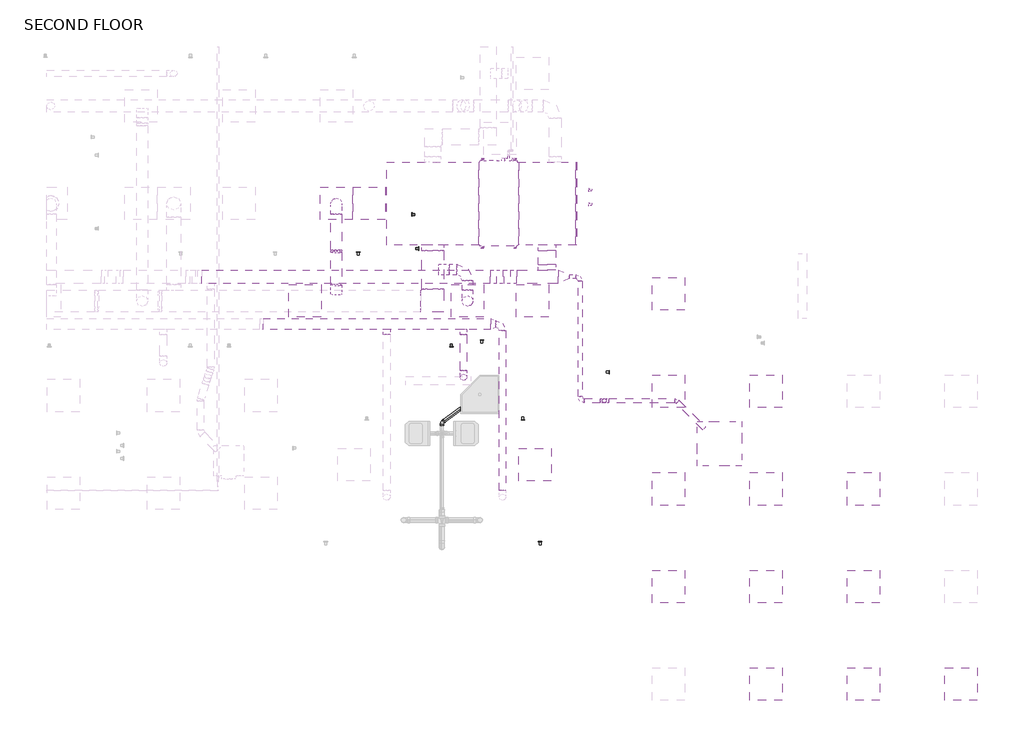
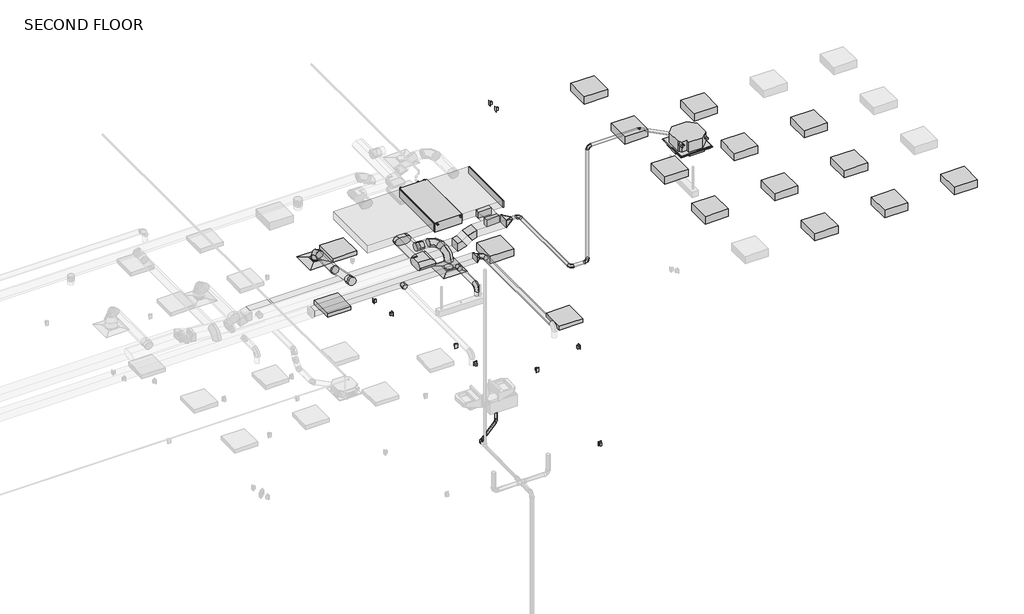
# One storey, part 5 of 12: 24 duct fittings, 22 duct segments, 16 light fixtures, 6 proxies, 6 switching devices, 2 air terminals, 2 pipe fittings, 2 pipe segments.
"""IFC4 building model written with IfcOpenShell, lengths in millimetres."""

from ifc_helpers import new_model, si_unit, point, frame, frame_2d, origin, place, context, project, spatial, polyline, circle_curve, trimmed, segment, composite_curve, outline, extrude, transform, mapped, element, save
from components import air_terminal_e9020785, mechanical_equipment_8a2286fb, mechanical_equipment_de7c3da1, duplex_receptacle_countertop_10251bba, oval_elbow_mitered_standard_57953c47, oval_tap_straight_standard_ffc37641, rectangular_elbow_radius_1_5_w_e6937f48, rectangular_endcap_standard_127bff01, rectangular_takeoff_standard_68f80ab3, rectangular_takeoff_standard_5ed12392, rectangular_to_round_transition_angle_45_degree_4c5d7f98, rectangular_to_round_transition_angle_45_degree_93651def, round_elbow_1_d_a253342a, round_elbow_1_d_c80420c1, round_elbow_1_d_aff85894, round_elbow_1_d_8c5a454f, round_elbow_1_d_b51427ba, round_takeoff_standard_8f6f248b, round_takeoff_standard_275da0e0, round_takeoff_standard_7fe2b2d5, troffer_corner_insert_2x2_3_lamp_emergency_29e3a813, troffer_corner_insert_2x2_3lamp_e67c7f8f, bend_pvc_sch_40_dwv_standard_1eaeee76, bend_pvc_sch_40_dwv_standard_be5bc2fd

model = new_model("IFC4")

# Units and contexts
model_context = context("Model", 3, world=origin())
ifc_project = project(units=[si_unit("LENGTHUNIT", "METRE", prefix="MILLI")], contexts=[model_context])

# Site, building, storey
site = spatial("IfcSite", under=ifc_project)
building = spatial("IfcBuilding", under=site)
storey = spatial("IfcBuildingStorey", under=building, Name="SECOND FLOOR", Elevation=34544.0)

# Air terminals
placement = place(None, origin())
air_terminal_shape = air_terminal_e9020785(model_context)
element("IfcAirTerminal", 1, ObjectType="Supply Diffuser - Rectangular Face Round Neck - Hosted : 24\"x24\" Face 8\" Neck - Hosted", at=placement, inside=storey, context=model_context, shape_type="MappedRepresentation", body=[
    mapped(air_terminal_shape, transform((8717.1232893, -751.4804995, 37287.2), x_axis=(-1.0, 0.0, 0.0), y_axis=(0.0, 1.0, 0.0), z_axis=(0.0, 0.0, -1.0))),
])
element("IfcAirTerminal", 2, ObjectType="Supply Diffuser - Rectangular Face Round Neck - Hosted : 24\"x24\" Face 8\" Neck - Hosted", at=placement, inside=storey, context=model_context, shape_type="MappedRepresentation", body=[
    mapped(air_terminal_shape, transform((11173.7795393, -2580.2804995, 37287.2), x_axis=(-1.0, 0.0, 0.0), y_axis=(0.0, 1.0, 0.0), z_axis=(0.0, 0.0, -1.0))),
])

# Proxies
mechanical_equipment_shape = mechanical_equipment_8a2286fb(model_context)
element("IfcBuildingElementProxy", 3, Name="PEFY-P-NMAU-E_Medium_Static_Ducted : PEFY-P54NMAU-E", ObjectType="PEFY-P-NMAU-E_Medium_Static_Ducted : PEFY-P54NMAU-E", at=placement, inside=storey, context=model_context, shape_type="MappedRepresentation", body=[
    mapped(mechanical_equipment_shape, transform((11814.3357893, -741.4682565, 37566.6), x_axis=(0.0, 1.0, 0.0), y_axis=(-1.0, 0.0, 0.0), z_axis=(0.0, 0.0, 1.0))),
])
mechanical_equipment_2_shape = mechanical_equipment_de7c3da1(model_context)
element("IfcBuildingElementProxy", 4, Name="PLFY-P-NBMU-E_4-way_33x33 : PLFY-P36NBMU-E", ObjectType="PLFY-P-NBMU-E_4-way_33x33 : PLFY-P36NBMU-E", at=placement, inside=storey, context=model_context, shape_type="MappedRepresentation", body=[
    mapped(mechanical_equipment_2_shape, transform((15640.3157152, -5255.0503148, 40741.6), x_axis=(1.0, 0.0, 0.0), y_axis=(0.0, 1.0, 0.0), z_axis=(0.0, 0.0, 1.0))),
])
duplex_receptacle_countertop_shape = duplex_receptacle_countertop_10251bba(model_context)
element("IfcBuildingElementProxy", 5, Name="Duplex Receptacle : GFCI", ObjectType="Duplex Receptacle : GFCI", at=placement, inside=storey, context=model_context, shape_type="MappedRepresentation", body=[
    mapped(duplex_receptacle_countertop_shape, transform((12532.6032078, -7095.1304995, 34696.4), x_axis=(-1.0, 0.0, 0.0), y_axis=(0.0, 0.0, 1.0), z_axis=(0.0, 1.0, 0.0))),
])
element("IfcBuildingElementProxy", 6, Name="Duplex Receptacle : Standard", ObjectType="Duplex Receptacle : Standard", at=placement, inside=storey, context=model_context, shape_type="MappedRepresentation", body=[
    mapped(duplex_receptacle_countertop_shape, transform((9126.9080833, -1665.8804995, 35001.2), x_axis=(-1.0, 0.0, 0.0), y_axis=(0.0, 0.0, 1.0), z_axis=(0.0, 1.0, 0.0))),
])
element("IfcBuildingElementProxy", 7, Name="Duplex Receptacle : Standard", ObjectType="Duplex Receptacle : Standard", at=placement, inside=storey, context=model_context, shape_type="MappedRepresentation", body=[
    mapped(duplex_receptacle_countertop_shape, transform((11443.1486524, -3313.7054995, 35001.2), x_axis=(-1.0, 0.0, 0.0), y_axis=(0.0, 0.0, 1.0), z_axis=(0.0, 1.0, 0.0))),
])
element("IfcBuildingElementProxy", 8, Name="Duplex Receptacle : Standard", ObjectType="Duplex Receptacle : Standard", at=placement, inside=storey, context=model_context, shape_type="MappedRepresentation", body=[
    mapped(duplex_receptacle_countertop_shape, transform((13828.0795393, -3914.6809044, 35001.2), x_axis=(0.0, 1.0, 0.0), y_axis=(0.0, 0.0, 1.0), z_axis=(1.0, 0.0, 0.0))),
])

# Duct fittings
oval_elbow_mitered_standard_shape = oval_elbow_mitered_standard_57953c47(model_context)
element("IfcDuctFitting", 9, ObjectType="Oval Elbow - Mitered : Standard", at=placement, inside=storey, context=model_context, shape_type="MappedRepresentation", body=[
    mapped(oval_elbow_mitered_standard_shape, transform((10522.5076643, -2580.2804995, 37711.1892428), x_axis=(1.0, 0.0, 0.0), y_axis=(0.0, 1.0, 0.0), z_axis=(0.0, 0.0, 1.0))),
])
oval_tap_straight_standard_shape = oval_tap_straight_standard_ffc37641(model_context)
element("IfcDuctFitting", 10, ObjectType="Oval Tap - Straight : Standard", at=placement, inside=storey, context=model_context, shape_type="MappedRepresentation", body=[
    mapped(oval_tap_straight_standard_shape, transform((10522.5076643, -1529.3554995, 37711.1892428), x_axis=(0.0, -1.0, 0.0), y_axis=(-1.0, 0.0, 0.0), z_axis=(0.0, 0.0, -1.0))),
])
rectangular_elbow_radius_1_5_w_shape = rectangular_elbow_radius_1_5_w_e6937f48(model_context)
element("IfcDuctFitting", 11, ObjectType="Rectangular Elbow - Radius : 1.5 W", at=placement, inside=storey, context=model_context, shape_type="MappedRepresentation", body=[
    mapped(rectangular_elbow_radius_1_5_w_shape, transform((11698.9780581, -2123.0804995, 37515.8), x_axis=(1.0, 0.0, 0.0), y_axis=(0.0, 0.0, 1.0), z_axis=(0.0, -1.0, 0.0))),
])
element("IfcDuctFitting", 12, ObjectType="Rectangular Elbow - Radius : 1.5 W", at=placement, inside=storey, context=model_context, shape_type="MappedRepresentation", body=[
    mapped(rectangular_elbow_radius_1_5_w_shape, transform((11999.3800654, -2123.0804995, 37726.14375), x_axis=(0.8191520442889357, 0.0, 0.5735764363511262), y_axis=(0.5735764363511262, 0.0, -0.8191520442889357), z_axis=(0.0, 1.0, 0.0))),
])
rectangular_endcap_standard_shape = rectangular_endcap_standard_127bff01(model_context)
element("IfcDuctFitting", 13, ObjectType="Rectangular Endcap : Standard", at=placement, inside=storey, context=model_context, shape_type="MappedRepresentation", body=[
    mapped(rectangular_endcap_standard_shape, transform((13198.6357893, -751.4804995, 37726.14375), x_axis=(1.0, 0.0, 0.0), y_axis=(0.0, 1.0, 0.0), z_axis=(0.0, 0.0, 1.0))),
])
rectangular_takeoff_standard_shape = rectangular_takeoff_standard_68f80ab3(model_context)
element("IfcDuctFitting", 14, ObjectType="Rectangular Takeoff : Standard", at=placement, inside=storey, context=model_context, shape_type="MappedRepresentation", body=[
    mapped(rectangular_takeoff_standard_shape, transform((12665.2357893, -1996.0804995, 37726.14375), x_axis=(0.0, 1.0, 0.0), y_axis=(1.0, 0.0, 0.0), z_axis=(0.0, 0.0, -1.0))),
])
rectangular_takeoff_standard_2_shape = rectangular_takeoff_standard_5ed12392(model_context)
element("IfcDuctFitting", 15, ObjectType="Rectangular Takeoff : Standard", at=placement, inside=storey, context=model_context, shape_type="MappedRepresentation", body=[
    mapped(rectangular_takeoff_standard_2_shape, transform((12665.2357893, -1529.3554995, 37726.14375), x_axis=(0.0, -1.0, 0.0), y_axis=(-1.0, 0.0, 0.0), z_axis=(0.0, 0.0, -1.0))),
])
rectangular_to_round_transition_angle_45_degree_shape = rectangular_to_round_transition_angle_45_degree_4c5d7f98(model_context)
element("IfcDuctFitting", 16, ObjectType="Rectangular to Round Transition - Angle : 45 Degree", at=placement, inside=storey, context=model_context, shape_type="MappedRepresentation", body=[
    mapped(rectangular_to_round_transition_angle_45_degree_shape, transform((11608.8480026, -3010.2706668, 37693.6), x_axis=(1.0, 0.0, 0.0), y_axis=(0.0, 1.0, 0.0), z_axis=(0.0, 0.0, 1.0))),
])
rectangular_to_round_transition_angle_45_degree_2_shape = rectangular_to_round_transition_angle_45_degree_93651def(model_context)
element("IfcDuctFitting", 17, ObjectType="Rectangular to Round Transition - Angle : 45 Degree", at=placement, inside=storey, context=model_context, shape_type="MappedRepresentation", body=[
    mapped(rectangular_to_round_transition_angle_45_degree_2_shape, transform((12871.0102837, -2123.0804995, 37726.14375), x_axis=(1.0, 0.0, 0.0), y_axis=(0.0, 1.0, 0.0), z_axis=(0.0, 0.0, 1.0))),
])
round_elbow_1_d_shape = round_elbow_1_d_a253342a(model_context)
element("IfcDuctFitting", 18, ObjectType="Round Elbow : 1 D", at=placement, inside=storey, context=model_context, shape_type="MappedRepresentation", body=[
    mapped(round_elbow_1_d_shape, transform((11173.7795393, -2580.2804995, 37712.65), x_axis=(0.0, 0.0, 1.0), y_axis=(0.0, 1.0, 0.0), z_axis=(-1.0, 0.0, 0.0))),
])
element("IfcDuctFitting", 19, ObjectType="Round Elbow : 1 D", at=placement, inside=storey, context=model_context, shape_type="MappedRepresentation", body=[
    mapped(round_elbow_1_d_shape, transform((8717.1232893, -751.4804995, 37547.2858674), x_axis=(0.0, 0.0, 1.0), y_axis=(0.0, -1.0, 0.0), z_axis=(1.0, 0.0, 0.0))),
])
element("IfcDuctFitting", 20, ObjectType="Round Elbow : 1 D", at=placement, inside=storey, context=model_context, shape_type="MappedRepresentation", body=[
    mapped(round_elbow_1_d_shape, transform((11173.7795393, -1991.3179995, 37712.65), x_axis=(0.0, 1.0, 0.0), y_axis=(-1.0, 0.0, 0.0), z_axis=(0.0, 0.0, 1.0))),
])
round_elbow_1_d_2_shape = round_elbow_1_d_c80420c1(model_context)
element("IfcDuctFitting", 21, ObjectType="Round Elbow : 1 D", at=placement, inside=storey, context=model_context, shape_type="MappedRepresentation", body=[
    mapped(round_elbow_1_d_2_shape, transform((11827.8295393, -3010.2706668, 37693.6), x_axis=(0.0, 1.0, 0.0), y_axis=(-1.0, 0.0, 0.0), z_axis=(0.0, 0.0, 1.0))),
])
element("IfcDuctFitting", 22, ObjectType="Round Elbow : 1 D", at=placement, inside=storey, context=model_context, shape_type="MappedRepresentation", body=[
    mapped(round_elbow_1_d_2_shape, transform((11097.8695952, -4010.3447967, 37693.6), x_axis=(0.0, 0.0, 1.0), y_axis=(0.0, 1.0, 0.0), z_axis=(-1.0, 0.0, 0.0))),
])
round_elbow_1_d_3_shape = round_elbow_1_d_aff85894(model_context)
element("IfcDuctFitting", 23, ObjectType="Round Elbow : 1 D", at=placement, inside=storey, context=model_context, shape_type="MappedRepresentation", body=[
    mapped(round_elbow_1_d_3_shape, transform((15088.2098103, -4450.4058819, 40919.3007812), x_axis=(-0.707106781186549, 0.707106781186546, 0.0), y_axis=(-0.707106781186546, -0.707106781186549, 0.0), z_axis=(0.0, 0.0, 1.0))),
])
round_elbow_1_d_4_shape = round_elbow_1_d_8c5a454f(model_context)
element("IfcDuctFitting", 24, ObjectType="Round Elbow : 1 D", at=placement, inside=storey, context=model_context, shape_type="MappedRepresentation", body=[
    mapped(round_elbow_1_d_4_shape, transform((13284.3268912, -2123.0804995, 37726.14375), x_axis=(0.0, 1.0, 0.0), y_axis=(-1.0, 0.0, 0.0), z_axis=(0.0, 0.0, 1.0))),
])
element("IfcDuctFitting", 25, ObjectType="Round Elbow : 1 D", at=placement, inside=storey, context=model_context, shape_type="MappedRepresentation", body=[
    mapped(round_elbow_1_d_4_shape, transform((13736.710796, -4450.4058819, 40919.3007812), x_axis=(-1.0, 0.0, 0.0), y_axis=(0.0, 0.0, -1.0), z_axis=(0.0, -1.0, 0.0))),
])
element("IfcDuctFitting", 26, ObjectType="Round Elbow : 1 D", at=placement, inside=storey, context=model_context, shape_type="MappedRepresentation", body=[
    mapped(round_elbow_1_d_4_shape, transform((13736.710796, -4450.4058819, 37726.14375), x_axis=(0.0, 0.0, -1.0), y_axis=(-1.0, 0.0, 0.0), z_axis=(0.0, 1.0, 0.0))),
])
element("IfcDuctFitting", 27, ObjectType="Round Elbow : 1 D", at=placement, inside=storey, context=model_context, shape_type="MappedRepresentation", body=[
    mapped(round_elbow_1_d_4_shape, transform((13284.3268912, -4450.4058819, 37726.14375), x_axis=(0.0, -1.0, 0.0), y_axis=(1.0, 0.0, 0.0), z_axis=(0.0, 0.0, 1.0))),
])
round_elbow_1_d_5_shape = round_elbow_1_d_b51427ba(model_context)
element("IfcDuctFitting", 28, ObjectType="Round Elbow : 1 D", at=placement, inside=storey, context=model_context, shape_type="MappedRepresentation", body=[
    mapped(round_elbow_1_d_5_shape, transform((8717.1232893, -1644.9208818, 37547.2858674), x_axis=(0.0, -1.0, 0.0), y_axis=(0.0, 0.0, 1.0), z_axis=(-1.0, 0.0, 0.0))),
])
round_takeoff_standard_shape = round_takeoff_standard_8f6f248b(model_context)
element("IfcDuctFitting", 29, ObjectType="Round Takeoff : Standard", at=placement, inside=storey, context=model_context, shape_type="MappedRepresentation", body=[
    mapped(round_takeoff_standard_shape, transform((8717.1232893, -2378.315039, 37696.8596758), x_axis=(0.0, 0.9798298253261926, -0.1998337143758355), y_axis=(-1.0, 0.0, 0.0), z_axis=(0.0, 0.1998337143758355, 0.9798298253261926))),
])
round_takeoff_standard_2_shape = round_takeoff_standard_275da0e0(model_context)
element("IfcDuctFitting", 30, ObjectType="Round Takeoff : Standard", at=placement, inside=storey, context=model_context, shape_type="MappedRepresentation", body=[
    mapped(round_takeoff_standard_2_shape, transform((10725.7076643, -1991.3179995, 37712.65), x_axis=(1.0, 0.0, 0.0), y_axis=(0.0, -1.0, 0.0), z_axis=(0.0, 0.0, -1.0))),
])
round_takeoff_standard_3_shape = round_takeoff_standard_7fe2b2d5(model_context)
element("IfcDuctFitting", 31, ObjectType="Round Takeoff : Standard", at=placement, inside=storey, context=model_context, shape_type="MappedRepresentation", body=[
    mapped(round_takeoff_standard_3_shape, transform((9659.3045393, -3111.8706668, 37693.6), x_axis=(0.0, -1.0, 0.0), y_axis=(-1.0, 0.0, 0.0), z_axis=(0.0, 0.0, -1.0))),
])
element("IfcDuctFitting", 32, ObjectType="Round Takeoff : Standard", at=placement, inside=storey, context=model_context, shape_type="MappedRepresentation", body=[
    mapped(round_takeoff_standard_3_shape, transform((11097.8695952, -3111.8706668, 37693.6), x_axis=(0.0, -1.0, 0.0), y_axis=(-1.0, 0.0, 0.0), z_axis=(0.0, 0.0, -1.0))),
])

# Duct segments
element("IfcDuctSegment", 33, ObjectType="Mitered Elbows / Taps", at=placement, inside=storey, context=model_context, shape_type="SweptSolid", body=[
    extrude(outline(composite_curve([segment(trimmed(circle_curve(frame_2d((37711.1892428, 10420.9076643)), 101.6), [point((37812.7892428, 10420.9076643))], [point((37711.1892428, 10319.3076643))], False, "CARTESIAN"), True, "CONTINUOUS"), segment(trimmed(circle_curve(frame_2d((37711.1892428, 10420.9076643)), 101.6), [point((37711.1892428, 10319.3076643))], [point((37609.5892428, 10420.9076643))], False, "CARTESIAN"), True, "CONTINUOUS"), segment(polyline([(37609.5892428, 10420.9076643), (37609.5892428, 10624.1076643)]), True, "CONTINUOUS"), segment(trimmed(circle_curve(frame_2d((37711.1892428, 10624.1076643)), 101.6), [point((37609.5892428, 10624.1076643))], [point((37711.1892428, 10725.7076643))], False, "CARTESIAN"), True, "CONTINUOUS"), segment(trimmed(circle_curve(frame_2d((37711.1892428, 10624.1076643)), 101.6), [point((37711.1892428, 10725.7076643))], [point((37812.7892428, 10624.1076643))], False, "CARTESIAN"), True, "CONTINUOUS"), segment(polyline([(37812.7892428, 10624.1076643), (37812.7892428, 10420.9076643)]), True, "CONTINUOUS")], self_intersect=False)), frame((0.0, -2351.6804995, 0.0), z_axis=(0.0, 1.0, 0.0), x_axis=(0.0, 0.0, 1.0)), (0.0, 0.0, 1.0), 720.725),
])
element("IfcDuctSegment", 34, ObjectType="Mitered Elbows / Taps", at=placement, inside=storey, context=model_context, shape_type="SweptSolid", body=[
    extrude(outline(polyline([(7344.8230026, -3111.8706668), (7344.8230026, -2908.6706668), (11608.8480026, -2908.6706668), (11608.8480026, -3111.8706668), (7344.8230026, -3111.8706668)])), frame((0.0, 0.0, 37617.4), z_axis=(0.0, 0.0, 1.0), x_axis=(1.0, 0.0, 0.0)), (0.0, 0.0, 1.0), 152.4),
])
element("IfcDuctSegment", 35, ObjectType="Mitered Elbows / Taps", at=placement, inside=storey, context=model_context, shape_type="SweptSolid", body=[
    extrude(outline(polyline([(12500.1357893, -1630.9554995), (12830.3357893, -1630.9554995), (12830.3357893, -1894.4804995), (12500.1357893, -1894.4804995), (12500.1357893, -1630.9554995)])), frame((0.0, 0.0, 37637.24375), z_axis=(0.0, 0.0, 1.0), x_axis=(1.0, 0.0, 0.0)), (0.0, 0.0, 1.0), 177.8),
])
element("IfcDuctSegment", 36, ObjectType="Mitered Elbows / Tees", at=placement, inside=storey, context=model_context, shape_type="SweptSolid", body=[
    extrude(outline(polyline([(11385.7107893, 26.3945005), (11385.7107893, -1529.3554995), (9659.3045393, -1529.3554995), (9659.3045393, 26.3945005), (11385.7107893, 26.3945005)])), frame((0.0, 0.0, 37609.4625), z_axis=(0.0, 0.0, 1.0), x_axis=(1.0, 0.0, 0.0)), (0.0, 0.0, 1.0), 206.375),
])
element("IfcDuctSegment", 37, ObjectType="Mitered Elbows / Tees", at=placement, inside=storey, context=model_context, shape_type="SweptSolid", body=[
    extrude(outline(polyline([(12131.8357893, -1529.3554995), (12131.8357893, 26.3945005), (13198.6357893, 26.3945005), (13198.6357893, -1529.3554995), (12131.8357893, -1529.3554995)])), frame((0.0, 0.0, 37636.45), z_axis=(0.0, 0.0, 1.0), x_axis=(1.0, 0.0, 0.0)), (0.0, 0.0, 1.0), 179.3875),
])
element("IfcDuctSegment", 38, ObjectType="Radius Elbows / Taps", at=placement, inside=storey, context=model_context, shape_type="SweptSolid", body=[
    extrude(outline(polyline([(6192.5974376, -2250.0804995), (6192.5974376, -1996.0804995), (11602.8749873, -1996.0804995), (11602.8749873, -2250.0804995), (6192.5974376, -2250.0804995)])), frame((0.0, 0.0, 37414.2), z_axis=(0.0, 0.0, 1.0), x_axis=(1.0, 0.0, 0.0)), (0.0, 0.0, 1.0), 203.2),
])
element("IfcDuctSegment", 39, ObjectType="Radius Elbows / Taps", at=placement, inside=storey, context=model_context, shape_type="SweptSolid", body=[
    extrude(outline(polyline([(0.0, -254.0), (0.0, 0.0), (174.5169952, 0.0), (174.5169952, -254.0), (0.0, -254.0)])), frame((11835.976451, -1996.0804995, 37487.6966092), z_axis=(-0.5735764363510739, 0.0, 0.8191520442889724), x_axis=(0.8191520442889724, 0.0, 0.5735764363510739)), (0.0, 0.0, 1.0), 203.2),
])
element("IfcDuctSegment", 40, ObjectType="Radius Elbows / Taps", at=placement, inside=storey, context=model_context, shape_type="SweptSolid", body=[
    extrude(outline(polyline([(12095.4831363, -2250.0804995), (12095.4831363, -1996.0804995), (12871.0102837, -1996.0804995), (12871.0102837, -2250.0804995), (12095.4831363, -2250.0804995)])), frame((0.0, 0.0, 37624.54375), z_axis=(0.0, 0.0, 1.0), x_axis=(1.0, 0.0, 0.0)), (0.0, 0.0, 1.0), 203.2),
])
element("IfcDuctSegment", 41, ObjectType="Taps / Short Radius", at=placement, inside=storey, context=model_context, shape_type="SweptSolid", body=[
    extrude(outline(composite_curve([segment(trimmed(circle_curve(frame_2d((-1991.3179995, 37712.65)), 101.6), [point((-1889.7179995, 37712.65))], [point((-1991.3179995, 37611.05))], False, "CARTESIAN"), True, "CONTINUOUS"), segment(trimmed(circle_curve(frame_2d((-1991.3179995, 37712.65)), 101.6), [point((-1991.3179995, 37611.05))], [point((-2092.9179995, 37712.65))], False, "CARTESIAN"), True, "CONTINUOUS"), segment(trimmed(circle_curve(frame_2d((-1991.3179995, 37712.65)), 101.6), [point((-2092.9179995, 37712.65))], [point((-1991.3179995, 37814.25))], False, "CARTESIAN"), True, "CONTINUOUS"), segment(trimmed(circle_curve(frame_2d((-1991.3179995, 37712.65)), 101.6), [point((-1991.3179995, 37814.25))], [point((-1889.7179995, 37712.65))], False, "CARTESIAN"), True, "CONTINUOUS")], self_intersect=False)), frame((10827.3076643, 0.0, 0.0), z_axis=(1.0, 0.0, 0.0), x_axis=(0.0, 1.0, 0.0)), (0.0, 0.0, 1.0), 143.271875),
])
element("IfcDuctSegment", 42, ObjectType="Taps / Short Radius", at=placement, inside=storey, context=model_context, shape_type="SweptSolid", body=[
    extrude(outline(composite_curve([segment(trimmed(circle_curve(frame_2d((37712.65, 11173.7795393)), 101.6), [point((37712.65, 11275.3795393))], [point((37814.25, 11173.7795393))], False, "CARTESIAN"), True, "CONTINUOUS"), segment(trimmed(circle_curve(frame_2d((37712.65, 11173.7795393)), 101.6), [point((37814.25, 11173.7795393))], [point((37712.65, 11072.1795393))], False, "CARTESIAN"), True, "CONTINUOUS"), segment(trimmed(circle_curve(frame_2d((37712.65, 11173.7795393)), 101.6), [point((37712.65, 11072.1795393))], [point((37611.05, 11173.7795393))], False, "CARTESIAN"), True, "CONTINUOUS"), segment(trimmed(circle_curve(frame_2d((37712.65, 11173.7795393)), 101.6), [point((37611.05, 11173.7795393))], [point((37712.65, 11275.3795393))], False, "CARTESIAN"), True, "CONTINUOUS")], self_intersect=False)), frame((0.0, -2377.0804995, 0.0), z_axis=(0.0, 1.0, 0.0), x_axis=(0.0, 0.0, 1.0)), (0.0, 0.0, 1.0), 182.5625),
])
element("IfcDuctSegment", 43, ObjectType="Taps / Short Radius", at=placement, inside=storey, context=model_context, shape_type="SweptSolid", body=[
    extrude(outline(composite_curve([segment(trimmed(circle_curve(frame_2d((11173.7795393, -2580.2804995)), 101.6), [point((11072.1795393, -2580.2804995))], [point((11173.7795393, -2478.6804995))], False, "CARTESIAN"), True, "CONTINUOUS"), segment(trimmed(circle_curve(frame_2d((11173.7795393, -2580.2804995)), 101.6), [point((11173.7795393, -2478.6804995))], [point((11275.3795393, -2580.2804995))], False, "CARTESIAN"), True, "CONTINUOUS"), segment(trimmed(circle_curve(frame_2d((11173.7795393, -2580.2804995)), 101.6), [point((11275.3795393, -2580.2804995))], [point((11173.7795393, -2681.8804995))], False, "CARTESIAN"), True, "CONTINUOUS"), segment(trimmed(circle_curve(frame_2d((11173.7795393, -2580.2804995)), 101.6), [point((11173.7795393, -2681.8804995))], [point((11072.1795393, -2580.2804995))], False, "CARTESIAN"), True, "CONTINUOUS")], self_intersect=False)), frame((0.0, 0.0, 37341.175), z_axis=(0.0, 0.0, 1.0), x_axis=(1.0, 0.0, 0.0)), (0.0, 0.0, 1.0), 168.275),
])
element("IfcDuctSegment", 44, ObjectType="Taps / Short Radius", at=placement, inside=storey, context=model_context, shape_type="SweptSolid", body=[
    extrude(outline(composite_curve([segment(trimmed(circle_curve(frame_2d((37693.6, 11827.8295393)), 63.5), [point((37693.6, 11891.3295393))], [point((37757.1, 11827.8295393))], False, "CARTESIAN"), True, "CONTINUOUS"), segment(trimmed(circle_curve(frame_2d((37693.6, 11827.8295393)), 63.5), [point((37757.1, 11827.8295393))], [point((37693.6, 11764.3295393))], False, "CARTESIAN"), True, "CONTINUOUS"), segment(trimmed(circle_curve(frame_2d((37693.6, 11827.8295393)), 63.5), [point((37693.6, 11764.3295393))], [point((37630.1, 11827.8295393))], False, "CARTESIAN"), True, "CONTINUOUS"), segment(trimmed(circle_curve(frame_2d((37693.6, 11827.8295393)), 63.5), [point((37630.1, 11827.8295393))], [point((37693.6, 11891.3295393))], False, "CARTESIAN"), True, "CONTINUOUS")], self_intersect=False)), frame((0.0, -6129.9304995, 0.0), z_axis=(0.0, 1.0, 0.0), x_axis=(0.0, 0.0, 1.0)), (0.0, 0.0, 1.0), 2992.6598327),
])
element("IfcDuctSegment", 45, ObjectType="Taps / Short Radius", at=placement, inside=storey, context=model_context, shape_type="SweptSolid", body=[
    extrude(outline(composite_curve([segment(trimmed(circle_curve(frame_2d((11097.8695952, -4010.3447967)), 63.5), [point((11034.3695952, -4010.3447967))], [point((11097.8695952, -3946.8447967))], False, "CARTESIAN"), True, "CONTINUOUS"), segment(trimmed(circle_curve(frame_2d((11097.8695952, -4010.3447967)), 63.5), [point((11097.8695952, -3946.8447967))], [point((11161.3695952, -4010.3447967))], False, "CARTESIAN"), True, "CONTINUOUS"), segment(trimmed(circle_curve(frame_2d((11097.8695952, -4010.3447967)), 63.5), [point((11161.3695952, -4010.3447967))], [point((11097.8695952, -4073.8447967))], False, "CARTESIAN"), True, "CONTINUOUS"), segment(trimmed(circle_curve(frame_2d((11097.8695952, -4010.3447967)), 63.5), [point((11097.8695952, -4073.8447967))], [point((11034.3695952, -4010.3447967))], False, "CARTESIAN"), True, "CONTINUOUS")], self_intersect=False)), frame((0.0, 0.0, 37388.8), z_axis=(0.0, 0.0, 1.0), x_axis=(1.0, 0.0, 0.0)), (0.0, 0.0, 1.0), 177.8),
])
element("IfcDuctSegment", 46, ObjectType="Taps / Short Radius", at=placement, inside=storey, context=model_context, shape_type="SweptSolid", body=[
    extrude(outline(composite_curve([segment(trimmed(circle_curve(frame_2d((37693.6, 11097.8695952)), 63.5), [point((37693.6, 11161.3695952))], [point((37757.1, 11097.8695952))], False, "CARTESIAN"), True, "CONTINUOUS"), segment(trimmed(circle_curve(frame_2d((37693.6, 11097.8695952)), 63.5), [point((37757.1, 11097.8695952))], [point((37693.6, 11034.3695952))], False, "CARTESIAN"), True, "CONTINUOUS"), segment(trimmed(circle_curve(frame_2d((37693.6, 11097.8695952)), 63.5), [point((37693.6, 11034.3695952))], [point((37630.1, 11097.8695952))], False, "CARTESIAN"), True, "CONTINUOUS"), segment(trimmed(circle_curve(frame_2d((37693.6, 11097.8695952)), 63.5), [point((37630.1, 11097.8695952))], [point((37693.6, 11161.3695952))], False, "CARTESIAN"), True, "CONTINUOUS")], self_intersect=False)), frame((0.0, -3883.3447967, 0.0), z_axis=(0.0, 1.0, 0.0), x_axis=(0.0, 0.0, 1.0)), (0.0, 0.0, 1.0), 669.8741299),
])
element("IfcDuctSegment", 47, ObjectType="Taps / Short Radius", at=placement, inside=storey, context=model_context, shape_type="SweptSolid", body=[
    extrude(outline(composite_curve([segment(trimmed(circle_curve(frame_2d((0.0, 39.5882813)), 39.5882812), [point((39.5882812, 39.5882813))], [point((0.0, 0.0))], False, "CARTESIAN"), True, "CONTINUOUS"), segment(trimmed(circle_curve(frame_2d((0.0, 39.5882813)), 39.5882813), [point((0.0, 0.0))], [point((-39.5882812, 39.5882813))], False, "CARTESIAN"), True, "CONTINUOUS"), segment(trimmed(circle_curve(frame_2d((0.0, 39.5882813)), 39.5882812), [point((-39.5882812, 39.5882813))], [point((0.0, 79.1765625))], False, "CARTESIAN"), True, "CONTINUOUS"), segment(trimmed(circle_curve(frame_2d((0.0, 39.5882813)), 39.5882813), [point((0.0, 79.1765625))], [point((39.5882812, 39.5882813))], False, "CARTESIAN"), True, "CONTINUOUS")], self_intersect=False)), frame((15609.0646653, -4971.2607369, 40958.8890625), z_axis=(-0.7071067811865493, 0.7071067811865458, 0.0), x_axis=(0.7071067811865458, 0.7071067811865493, 0.0)), (0.0, 0.0, 1.0), 703.803994),
])
element("IfcDuctSegment", 48, ObjectType="Taps / Short Radius", at=placement, inside=storey, context=model_context, shape_type="SweptSolid", body=[
    extrude(outline(composite_curve([segment(trimmed(circle_curve(frame_2d((-4450.4058819, 40919.3007812)), 39.5882812), [point((-4410.8176006, 40919.3007812))], [point((-4450.4058819, 40879.7125))], False, "CARTESIAN"), True, "CONTINUOUS"), segment(trimmed(circle_curve(frame_2d((-4450.4058819, 40919.3007812)), 39.5882813), [point((-4450.4058819, 40879.7125))], [point((-4489.9941631, 40919.3007812))], False, "CARTESIAN"), True, "CONTINUOUS"), segment(trimmed(circle_curve(frame_2d((-4450.4058819, 40919.3007812)), 39.5882813), [point((-4489.9941631, 40919.3007812))], [point((-4450.4058819, 40958.8890625))], False, "CARTESIAN"), True, "CONTINUOUS"), segment(trimmed(circle_curve(frame_2d((-4450.4058819, 40919.3007812)), 39.5882813), [point((-4450.4058819, 40958.8890625))], [point((-4410.8176006, 40919.3007812))], False, "CARTESIAN"), True, "CONTINUOUS")], self_intersect=False)), frame((13815.8873585, 0.0, 0.0), z_axis=(1.0, 0.0, 0.0), x_axis=(0.0, 1.0, 0.0)), (0.0, 0.0, 1.0), 1239.5264458),
])
element("IfcDuctSegment", 49, ObjectType="Taps / Short Radius", at=placement, inside=storey, context=model_context, shape_type="SweptSolid", body=[
    extrude(outline(composite_curve([segment(trimmed(circle_curve(frame_2d((37726.14375, 13284.3268912)), 39.5882813), [point((37726.14375, 13244.73861))], [point((37686.5554688, 13284.3268912))], False, "CARTESIAN"), True, "CONTINUOUS"), segment(trimmed(circle_curve(frame_2d((37726.14375, 13284.3268912)), 39.5882813), [point((37686.5554688, 13284.3268912))], [point((37726.14375, 13323.9151725))], False, "CARTESIAN"), True, "CONTINUOUS"), segment(trimmed(circle_curve(frame_2d((37726.14375, 13284.3268912)), 39.5882812), [point((37726.14375, 13323.9151725))], [point((37765.7320313, 13284.3268912))], False, "CARTESIAN"), True, "CONTINUOUS"), segment(trimmed(circle_curve(frame_2d((37726.14375, 13284.3268912)), 39.5882813), [point((37765.7320313, 13284.3268912))], [point((37726.14375, 13244.73861))], False, "CARTESIAN"), True, "CONTINUOUS")], self_intersect=False)), frame((0.0, -4371.2293194, 0.0), z_axis=(0.0, 1.0, 0.0), x_axis=(0.0, 0.0, 1.0)), (0.0, 0.0, 1.0), 2168.9722574),
])
element("IfcDuctSegment", 50, ObjectType="Taps / Short Radius", at=placement, inside=storey, context=model_context, shape_type="SweptSolid", body=[
    extrude(outline(composite_curve([segment(trimmed(circle_curve(frame_2d((-2123.0804995, 37726.14375)), 39.5882813), [point((-2162.6687807, 37726.14375))], [point((-2123.0804995, 37765.7320313))], False, "CARTESIAN"), True, "CONTINUOUS"), segment(trimmed(circle_curve(frame_2d((-2123.0804995, 37726.14375)), 39.5882813), [point((-2123.0804995, 37765.7320313))], [point((-2083.4922182, 37726.14375))], False, "CARTESIAN"), True, "CONTINUOUS"), segment(trimmed(circle_curve(frame_2d((-2123.0804995, 37726.14375)), 39.5882813), [point((-2083.4922182, 37726.14375))], [point((-2123.0804995, 37686.5554688))], False, "CARTESIAN"), True, "CONTINUOUS"), segment(trimmed(circle_curve(frame_2d((-2123.0804995, 37726.14375)), 39.5882813), [point((-2123.0804995, 37686.5554688))], [point((-2162.6687807, 37726.14375))], False, "CARTESIAN"), True, "CONTINUOUS")], self_intersect=False)), frame((13082.0408406, 0.0, 0.0), z_axis=(1.0, 0.0, 0.0), x_axis=(0.0, 1.0, 0.0)), (0.0, 0.0, 1.0), 123.1094881),
])
element("IfcDuctSegment", 51, ObjectType="Taps / Short Radius", at=placement, inside=storey, context=model_context, shape_type="SweptSolid", body=[
    extrude(outline(composite_curve([segment(trimmed(circle_curve(frame_2d((37547.2858674, 8717.1232893)), 101.6), [point((37547.2858674, 8615.5232893))], [point((37445.6858674, 8717.1232893))], False, "CARTESIAN"), True, "CONTINUOUS"), segment(trimmed(circle_curve(frame_2d((37547.2858674, 8717.1232893)), 101.6), [point((37445.6858674, 8717.1232893))], [point((37547.2858674, 8818.7232893))], False, "CARTESIAN"), True, "CONTINUOUS"), segment(trimmed(circle_curve(frame_2d((37547.2858674, 8717.1232893)), 101.6), [point((37547.2858674, 8818.7232893))], [point((37648.8858674, 8717.1232893))], False, "CARTESIAN"), True, "CONTINUOUS"), segment(trimmed(circle_curve(frame_2d((37547.2858674, 8717.1232893)), 101.6), [point((37648.8858674, 8717.1232893))], [point((37547.2858674, 8615.5232893))], False, "CARTESIAN"), True, "CONTINUOUS")], self_intersect=False)), frame((0.0, -1624.4109318, 0.0), z_axis=(0.0, 1.0, 0.0), x_axis=(0.0, 0.0, 1.0)), (0.0, 0.0, 1.0), 669.7304323),
])
element("IfcDuctSegment", 52, ObjectType="Taps / Short Radius", at=placement, inside=storey, context=model_context, shape_type="SweptSolid", body=[
    extrude(outline(composite_curve([segment(trimmed(circle_curve(frame_2d((0.0, -101.6)), 101.6), [point((101.6, -101.6))], [point((0.0, -203.2))], False, "CARTESIAN"), True, "CONTINUOUS"), segment(trimmed(circle_curve(frame_2d((0.0, -101.6)), 101.6), [point((0.0, -203.2))], [point((-101.6, -101.6))], False, "CARTESIAN"), True, "CONTINUOUS"), segment(trimmed(circle_curve(frame_2d((0.0, -101.6)), 101.6), [point((-101.6, -101.6))], [point((0.0, 0.0))], False, "CARTESIAN"), True, "CONTINUOUS"), segment(trimmed(circle_curve(frame_2d((0.0, -101.6)), 101.6), [point((0.0, 0.0))], [point((101.6, -101.6))], False, "CARTESIAN"), True, "CONTINUOUS")], self_intersect=False)), frame((8717.1232893, -1644.7140371, 37650.9351572), z_axis=(0.0, -0.9798298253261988, 0.19983371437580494), x_axis=(1.0, 0.0, 0.0)), (0.0, 0.0, 1.0), 626.1642708),
])
element("IfcDuctSegment", 53, ObjectType="Taps / Short Radius", at=placement, inside=storey, context=model_context, shape_type="SweptSolid", body=[
    extrude(outline(composite_curve([segment(trimmed(circle_curve(frame_2d((-4450.4058819, 37726.14375)), 39.5882812), [point((-4410.8176006, 37726.14375))], [point((-4450.4058819, 37686.5554688))], False, "CARTESIAN"), True, "CONTINUOUS"), segment(trimmed(circle_curve(frame_2d((-4450.4058819, 37726.14375)), 39.5882813), [point((-4450.4058819, 37686.5554688))], [point((-4489.9941631, 37726.14375))], False, "CARTESIAN"), True, "CONTINUOUS"), segment(trimmed(circle_curve(frame_2d((-4450.4058819, 37726.14375)), 39.5882813), [point((-4489.9941631, 37726.14375))], [point((-4450.4058819, 37765.7320313))], False, "CARTESIAN"), True, "CONTINUOUS"), segment(trimmed(circle_curve(frame_2d((-4450.4058819, 37726.14375)), 39.5882813), [point((-4450.4058819, 37765.7320313))], [point((-4410.8176006, 37726.14375))], False, "CARTESIAN"), True, "CONTINUOUS")], self_intersect=False)), frame((13363.5034537, 0.0, 0.0), z_axis=(1.0, 0.0, 0.0), x_axis=(0.0, 1.0, 0.0)), (0.0, 0.0, 1.0), 294.0307797),
])
element("IfcDuctSegment", 54, ObjectType="Taps / Short Radius", at=placement, inside=storey, context=model_context, shape_type="SweptSolid", body=[
    extrude(outline(composite_curve([segment(trimmed(circle_curve(frame_2d((13736.710796, -4450.4058819)), 39.5882812), [point((13736.710796, -4410.8176006))], [point((13776.2990772, -4450.4058819))], False, "CARTESIAN"), True, "CONTINUOUS"), segment(trimmed(circle_curve(frame_2d((13736.710796, -4450.4058819)), 39.5882813), [point((13776.2990772, -4450.4058819))], [point((13736.710796, -4489.9941631))], False, "CARTESIAN"), True, "CONTINUOUS"), segment(trimmed(circle_curve(frame_2d((13736.710796, -4450.4058819)), 39.5882813), [point((13736.710796, -4489.9941631))], [point((13697.1225147, -4450.4058819))], False, "CARTESIAN"), True, "CONTINUOUS"), segment(trimmed(circle_curve(frame_2d((13736.710796, -4450.4058819)), 39.5882812), [point((13697.1225147, -4450.4058819))], [point((13736.710796, -4410.8176006))], False, "CARTESIAN"), True, "CONTINUOUS")], self_intersect=False)), frame((0.0, 0.0, 37805.3203125), z_axis=(0.0, 0.0, 1.0), x_axis=(1.0, 0.0, 0.0)), (0.0, 0.0, 1.0), 3034.8039062),
])

# Light fixtures
troffer_corner_insert_2x2_3_lamp_emergency_shape = troffer_corner_insert_2x2_3_lamp_emergency_29e3a813(model_context)
element("IfcLightFixture", 55, ObjectType="Troffer Corner Insert : 2x2 3 Lamp Emergency", at=placement, inside=storey, context=model_context, shape_type="MappedRepresentation", body=[
    mapped(troffer_corner_insert_2x2_3_lamp_emergency_shape, transform((12392.9795393, -2580.2804995, 34848.8), x_axis=(1.0, 0.0, 0.0), y_axis=(0.0, 1.0, 0.0), z_axis=(0.0, 0.0, 1.0))),
])
element("IfcLightFixture", 56, ObjectType="Troffer Corner Insert : 2x2 3 Lamp Emergency", at=placement, inside=storey, context=model_context, shape_type="MappedRepresentation", body=[
    mapped(troffer_corner_insert_2x2_3_lamp_emergency_shape, transform((14938.3445338, -2446.9304995, 38303.2), x_axis=(1.0, 0.0, 0.0), y_axis=(0.0, 1.0, 0.0), z_axis=(0.0, 0.0, 1.0))),
])
troffer_corner_insert_2x2_3lamp_shape = troffer_corner_insert_2x2_3lamp_e67c7f8f(model_context)
element("IfcLightFixture", 57, ObjectType="Troffer Corner Insert : 2x2 3Lamp", at=placement, inside=storey, context=model_context, shape_type="MappedRepresentation", body=[
    mapped(troffer_corner_insert_2x2_3lamp_shape, transform((8125.7795393, -2580.2804995, 34848.8), x_axis=(1.0, 0.0, 0.0), y_axis=(0.0, 1.0, 0.0), z_axis=(0.0, 0.0, 1.0))),
])
element("IfcLightFixture", 58, ObjectType="Troffer Corner Insert : 2x2 3Lamp", at=placement, inside=storey, context=model_context, shape_type="MappedRepresentation", body=[
    mapped(troffer_corner_insert_2x2_3lamp_shape, transform((12437.4295393, -5647.3304995, 34848.8), x_axis=(1.0, 0.0, 0.0), y_axis=(0.0, 1.0, 0.0), z_axis=(0.0, 0.0, 1.0))),
])
element("IfcLightFixture", 59, ObjectType="Troffer Corner Insert : 2x2 3Lamp", at=placement, inside=storey, context=model_context, shape_type="MappedRepresentation", body=[
    mapped(troffer_corner_insert_2x2_3lamp_shape, transform((9326.7232893, -751.4804995, 34848.8), x_axis=(1.0, 0.0, 0.0), y_axis=(0.0, 1.0, 0.0), z_axis=(0.0, 0.0, 1.0))),
])
element("IfcLightFixture", 60, ObjectType="Troffer Corner Insert : 2x2 3Lamp High Profile", at=placement, inside=storey, context=model_context, shape_type="MappedRepresentation", body=[
    mapped(troffer_corner_insert_2x2_3_lamp_emergency_shape, transform((14938.3445338, -6104.5304995, 38303.2), x_axis=(1.0, 0.0, 0.0), y_axis=(0.0, 1.0, 0.0), z_axis=(0.0, 0.0, 1.0))),
])
element("IfcLightFixture", 61, ObjectType="Troffer Corner Insert : 2x2 3Lamp High Profile", at=placement, inside=storey, context=model_context, shape_type="MappedRepresentation", body=[
    mapped(troffer_corner_insert_2x2_3_lamp_emergency_shape, transform((16767.1445338, -6104.5304995, 38303.2), x_axis=(1.0, 0.0, 0.0), y_axis=(0.0, 1.0, 0.0), z_axis=(0.0, 0.0, 1.0))),
])
element("IfcLightFixture", 62, ObjectType="Troffer Corner Insert : 2x2 3Lamp High Profile", at=placement, inside=storey, context=model_context, shape_type="MappedRepresentation", body=[
    mapped(troffer_corner_insert_2x2_3_lamp_emergency_shape, transform((18595.9445338, -6104.5304995, 38303.2), x_axis=(1.0, 0.0, 0.0), y_axis=(0.0, 1.0, 0.0), z_axis=(0.0, 0.0, 1.0))),
])
element("IfcLightFixture", 63, ObjectType="Troffer Corner Insert : 2x2 3Lamp High Profile", at=placement, inside=storey, context=model_context, shape_type="MappedRepresentation", body=[
    mapped(troffer_corner_insert_2x2_3_lamp_emergency_shape, transform((14938.3445338, -7933.3304995, 38303.2), x_axis=(1.0, 0.0, 0.0), y_axis=(0.0, 1.0, 0.0), z_axis=(0.0, 0.0, 1.0))),
])
element("IfcLightFixture", 64, ObjectType="Troffer Corner Insert : 2x2 3Lamp High Profile", at=placement, inside=storey, context=model_context, shape_type="MappedRepresentation", body=[
    mapped(troffer_corner_insert_2x2_3_lamp_emergency_shape, transform((16767.1445338, -7933.3304995, 38303.2), x_axis=(1.0, 0.0, 0.0), y_axis=(0.0, 1.0, 0.0), z_axis=(0.0, 0.0, 1.0))),
])
element("IfcLightFixture", 65, ObjectType="Troffer Corner Insert : 2x2 3Lamp High Profile", at=placement, inside=storey, context=model_context, shape_type="MappedRepresentation", body=[
    mapped(troffer_corner_insert_2x2_3_lamp_emergency_shape, transform((18595.9445338, -7933.3304995, 38303.2), x_axis=(1.0, 0.0, 0.0), y_axis=(0.0, 1.0, 0.0), z_axis=(0.0, 0.0, 1.0))),
])
element("IfcLightFixture", 66, ObjectType="Troffer Corner Insert : 2x2 3Lamp High Profile", at=placement, inside=storey, context=model_context, shape_type="MappedRepresentation", body=[
    mapped(troffer_corner_insert_2x2_3_lamp_emergency_shape, transform((16767.1445338, -9762.1304995, 38303.2), x_axis=(1.0, 0.0, 0.0), y_axis=(0.0, 1.0, 0.0), z_axis=(0.0, 0.0, 1.0))),
])
element("IfcLightFixture", 67, ObjectType="Troffer Corner Insert : 2x2 3Lamp High Profile", at=placement, inside=storey, context=model_context, shape_type="MappedRepresentation", body=[
    mapped(troffer_corner_insert_2x2_3_lamp_emergency_shape, transform((18595.9445338, -9762.1304995, 38303.2), x_axis=(1.0, 0.0, 0.0), y_axis=(0.0, 1.0, 0.0), z_axis=(0.0, 0.0, 1.0))),
])
element("IfcLightFixture", 68, ObjectType="Troffer Corner Insert : 2x2 3Lamp High Profile", at=placement, inside=storey, context=model_context, shape_type="MappedRepresentation", body=[
    mapped(troffer_corner_insert_2x2_3_lamp_emergency_shape, transform((20424.7445338, -9762.1304995, 38303.2), x_axis=(1.0, 0.0, 0.0), y_axis=(0.0, 1.0, 0.0), z_axis=(0.0, 0.0, 1.0))),
])
element("IfcLightFixture", 69, ObjectType="Troffer Corner Insert : 2x2 3Lamp High Profile", at=placement, inside=storey, context=model_context, shape_type="MappedRepresentation", body=[
    mapped(troffer_corner_insert_2x2_3_lamp_emergency_shape, transform((16767.1445338, -4275.7304995, 38303.2), x_axis=(1.0, 0.0, 0.0), y_axis=(0.0, 1.0, 0.0), z_axis=(0.0, 0.0, 1.0))),
])
element("IfcLightFixture", 70, ObjectType="Troffer Corner Insert : 2x2 3Lamp High Profile", at=placement, inside=storey, context=model_context, shape_type="MappedRepresentation", body=[
    mapped(troffer_corner_insert_2x2_3_lamp_emergency_shape, transform((14938.3445338, -4275.7304995, 38303.2), x_axis=(1.0, 0.0, 0.0), y_axis=(0.0, 1.0, 0.0), z_axis=(0.0, 0.0, 1.0))),
])

# Pipe fittings
bend_pvc_sch_40_dwv_standard_shape = bend_pvc_sch_40_dwv_standard_1eaeee76(model_context)
element("IfcPipeFitting", 71, ObjectType="Bend - PVC - Sch 40 - DWV : Standard", at=placement, inside=storey, context=model_context, shape_type="MappedRepresentation", body=[
    mapped(bend_pvc_sch_40_dwv_standard_shape, transform((11405.5049299, -4329.7054995, 34035.20625), x_axis=(0.0, 0.0, -1.0), y_axis=(-0.8040613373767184, -0.5945463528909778, 0.0), z_axis=(-0.5945463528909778, 0.8040613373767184, 0.0))),
])
bend_pvc_sch_40_dwv_standard_2_shape = bend_pvc_sch_40_dwv_standard_be5bc2fd(model_context)
element("IfcPipeFitting", 72, ObjectType="Bend - PVC - Sch 40 - DWV : Standard", at=placement, inside=storey, context=model_context, shape_type="MappedRepresentation", body=[
    mapped(bend_pvc_sch_40_dwv_standard_2_shape, transform((10692.7422346, -4856.7429794, 34035.20625), x_axis=(-0.8040613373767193, -0.5945463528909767, 0.0), y_axis=(0.5945463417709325, -0.8040613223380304, -0.00019340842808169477), z_axis=(0.00011499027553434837, -0.0001555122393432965, 0.99999998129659))),
])

# Pipe segments
element("IfcPipeSegment", 73, ObjectType="PVC - DWV", at=placement, inside=storey, context=model_context, shape_type="SweptSolid", body=[
    extrude(outline(composite_curve([segment(trimmed(circle_curve(frame_2d((0.0, -30.1625)), 30.1625), [point((-30.1625, -30.1625))], [point((0.0, 0.0))], False, "CARTESIAN"), True, "CONTINUOUS"), segment(trimmed(circle_curve(frame_2d((0.0, -30.1625)), 30.1625), [point((0.0, 0.0))], [point((30.1625, -30.1625))], False, "CARTESIAN"), True, "CONTINUOUS"), segment(trimmed(circle_curve(frame_2d((0.0, -30.1625)), 30.1625), [point((30.1625, -30.1625))], [point((0.0, -60.325))], False, "CARTESIAN"), True, "CONTINUOUS"), segment(trimmed(circle_curve(frame_2d((0.0, -30.1625)), 30.1625), [point((0.0, -60.325))], [point((-30.1625, -30.1625))], False, "CARTESIAN"), True, "CONTINUOUS")], self_intersect=False)), frame((10734.8752095, -4825.5886316, 34005.04375), z_axis=(0.8040613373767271, 0.594546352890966, 0.0), x_axis=(0.594546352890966, -0.8040613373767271, 0.0)), (0.0, 0.0, 1.0), 756.2527376),
])
element("IfcPipeSegment", 74, ObjectType="PVC - DWV", at=placement, inside=storey, context=model_context, shape_type="SweptSolid", body=[
    extrude(outline(composite_curve([segment(trimmed(circle_curve(frame_2d((11405.5049299, -4329.7054995)), 30.1625), [point((11435.6674299, -4329.7054995))], [point((11405.5049299, -4359.8679995))], False, "CARTESIAN"), True, "CONTINUOUS"), segment(trimmed(circle_curve(frame_2d((11405.5049299, -4329.7054995)), 30.1625), [point((11405.5049299, -4359.8679995))], [point((11375.3424299, -4329.7054995))], False, "CARTESIAN"), True, "CONTINUOUS"), segment(trimmed(circle_curve(frame_2d((11405.5049299, -4329.7054995)), 30.1625), [point((11375.3424299, -4329.7054995))], [point((11405.5049299, -4299.5429995))], False, "CARTESIAN"), True, "CONTINUOUS"), segment(trimmed(circle_curve(frame_2d((11405.5049299, -4329.7054995)), 30.1625), [point((11405.5049299, -4299.5429995))], [point((11435.6674299, -4329.7054995))], False, "CARTESIAN"), True, "CONTINUOUS")], self_intersect=False)), frame((0.0, 0.0, 34113.00645), z_axis=(0.0, 0.0, 1.0), x_axis=(1.0, 0.0, 0.0)), (0.0, 0.0, 1.0), 430.99355),
])

# Switching devices
element("IfcSwitchingDevice", 75, ObjectType="Lighting Switches : Single Pole", at=placement, inside=storey, context=model_context, shape_type="MappedRepresentation", body=[
    mapped(duplex_receptacle_countertop_shape, transform((10871.8976431, -3437.5304995, 35763.2), x_axis=(1.0, 0.0, 0.0), y_axis=(0.0, 0.0, 1.0), z_axis=(0.0, -1.0, 0.0))),
])
element("IfcSwitchingDevice", 76, ObjectType="Lighting Switches : Single Pole", at=placement, inside=storey, context=model_context, shape_type="MappedRepresentation", body=[
    mapped(duplex_receptacle_countertop_shape, transform((12212.6406803, -4809.1304995, 35458.4), x_axis=(1.0, 0.0, 0.0), y_axis=(0.0, 0.0, 1.0), z_axis=(0.0, -1.0, 0.0))),
])
element("IfcSwitchingDevice", 77, ObjectType="Lighting Switches : Three Way", at=placement, inside=storey, context=model_context, shape_type="MappedRepresentation", body=[
    mapped(duplex_receptacle_countertop_shape, transform((13450.2545393, -768.7039456, 39814.5), x_axis=(0.0, -1.0, 0.0), y_axis=(0.0, 0.0, 1.0), z_axis=(-1.0, 0.0, 0.0))),
])
element("IfcSwitchingDevice", 78, ObjectType="Lighting Switches : Three Way", at=placement, inside=storey, context=model_context, shape_type="MappedRepresentation", body=[
    mapped(duplex_receptacle_countertop_shape, transform((10135.5545393, -957.5223004, 35763.2), x_axis=(0.0, -1.0, 0.0), y_axis=(0.0, 0.0, 1.0), z_axis=(-1.0, 0.0, 0.0))),
])
element("IfcSwitchingDevice", 79, ObjectType="Lighting Switches : Three Way", at=placement, inside=storey, context=model_context, shape_type="MappedRepresentation", body=[
    mapped(duplex_receptacle_countertop_shape, transform((10259.3795393, -1598.7472312, 35763.2), x_axis=(0.0, 1.0, 0.0), y_axis=(0.0, 0.0, 1.0), z_axis=(1.0, 0.0, 0.0))),
])
element("IfcSwitchingDevice", 80, ObjectType="Lighting Switches : Three Way", at=placement, inside=storey, context=model_context, shape_type="MappedRepresentation", body=[
    mapped(duplex_receptacle_countertop_shape, transform((13450.2545393, -498.5306168, 39814.5), x_axis=(0.0, -1.0, 0.0), y_axis=(0.0, 0.0, 1.0), z_axis=(-1.0, 0.0, 0.0))),
])

save(model, "model.ifc")
